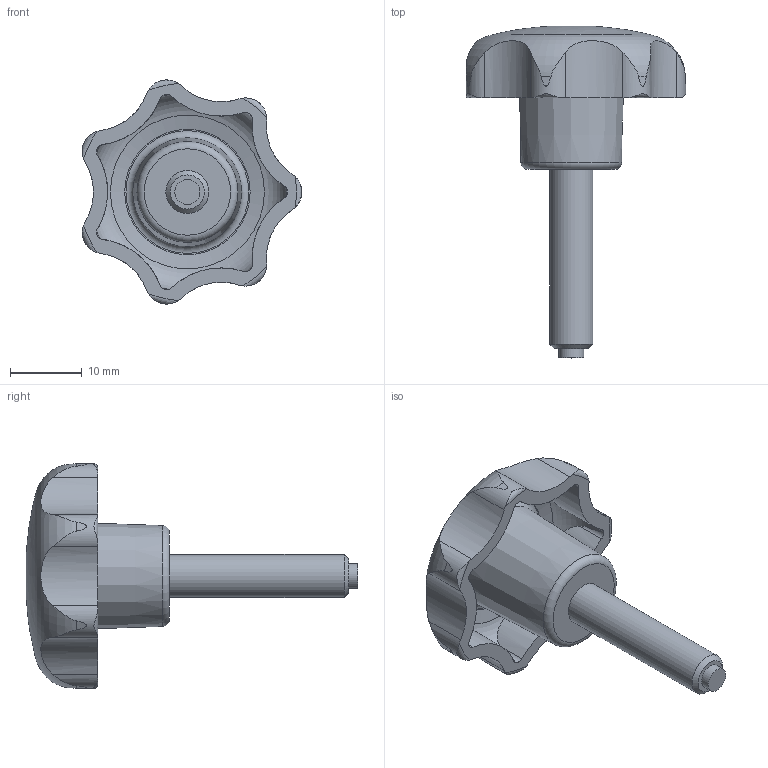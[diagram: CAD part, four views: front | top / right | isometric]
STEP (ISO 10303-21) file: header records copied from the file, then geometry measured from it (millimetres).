
FILE_DESCRIPTION( ( 'STEP AP203' ), '1' );
FILE_NAME( 'C:/Temp/Ganter_Step_05_03_2020/data/2_2/gn6336_10/Star knob GN 6336.10-32-M6-25-KU.stp', '2020-03-05T12:04:22', ( 'License CC BY-ND 4.0' ), ( 'CADENAS' ), ' ', 'PARTsolutions', ' ' );
FILE_SCHEMA( ( 'CONFIG_CONTROL_DESIGN' ) );
Length unit declared in the file: millimetre
Products named in the file (1): _Star knob GN 6336.10-32-M6-25-KU
Bounding box: 30.63 x 46.32 x 31.27 mm (x, y, z)
Volume: 6105.6 mm3; surface area: 3777.8 mm2
Topology: 1 solids, 1 shells, 65 faces, 189 edges, 128 vertices
Faces by surface type: cylinder 30, cone 17, torus 13, plane 4, bspline 1
Full cylindrical faces by diameter (mm): 3.5 x1, 6 x1
Entity records: 3035 total; most frequent: CARTESIAN_POINT 1421, ORIENTED_EDGE 348, DIRECTION 296, EDGE_CURVE 174, AXIS2_PLACEMENT_3D 134, VERTEX_POINT 125, EDGE_LOOP 78, B_SPLINE_CURVE_WITH_KNOTS 77
